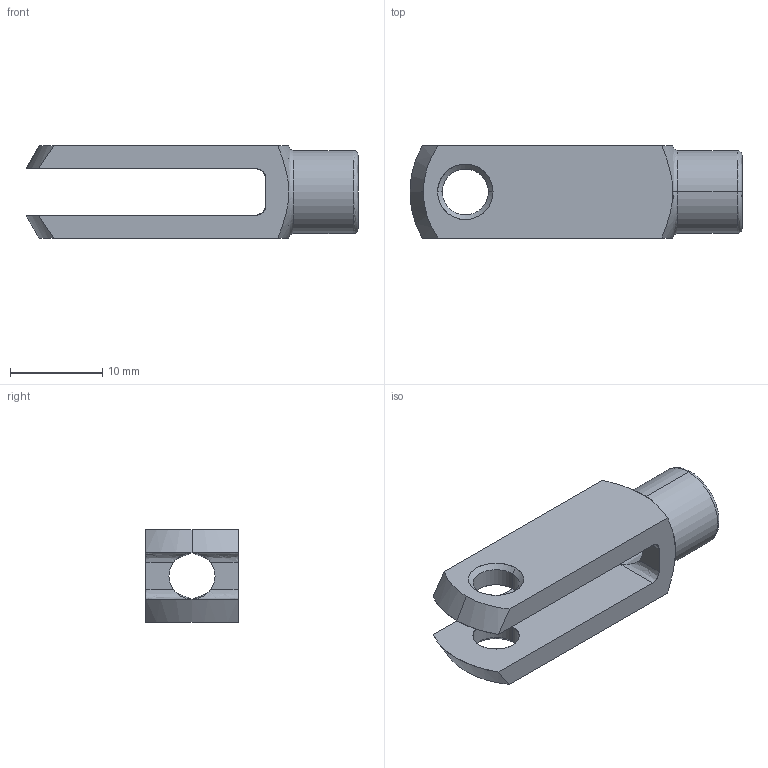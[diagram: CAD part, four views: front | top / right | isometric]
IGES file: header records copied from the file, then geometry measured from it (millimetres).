
Start section: SolidWorks IGES file using analytic representation for surfaces
Global section: file name: C:\Documents and Settings\IANO\My Documents\Wix and Auto CAD Work\CAD Models\Parametric Models\Wix Models\60000\65635_v2\65635_v2_IGES\65635.W0052.igs; native system: SolidWorks 2009; preprocessor: SolidWorks 2009; author: IANO; date: 140117.130358; units: millimetre
Bounding box: 36 x 10 x 10 mm (x, y, z)
Surface area: 1827.6 mm2 (no closed solid volume)
Topology: 0 solids, 0 shells, 38 faces, 518 edges, 518 vertices
Faces by surface type: revolution 25, bspline 13
